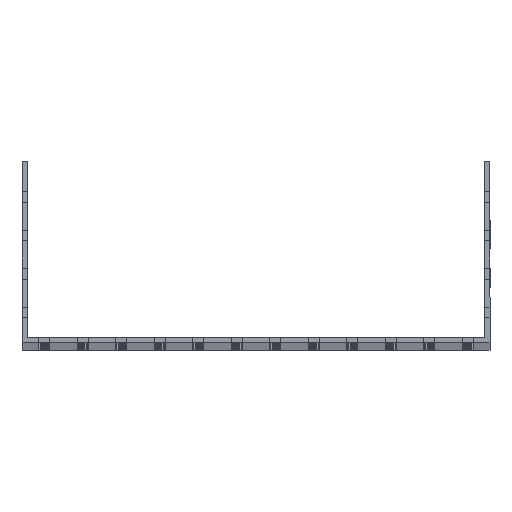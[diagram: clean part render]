
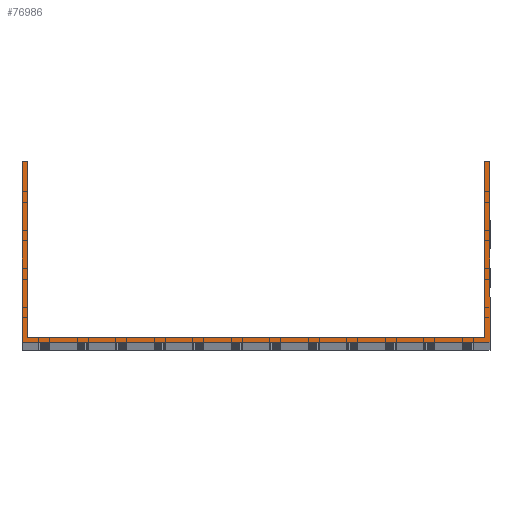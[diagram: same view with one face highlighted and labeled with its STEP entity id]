
A CAD part, top view. The second image highlights one B-rep face of the part: STEP entity #76986.
In plain terms, the highlighted planar face has unit normal (0, 0, 1).
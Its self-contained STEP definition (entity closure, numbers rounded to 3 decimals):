
#2310 = CARTESIAN_POINT ( 'NONE',  ( 148.5, 3.5, 1500. ) ) ;
#3066 = CARTESIAN_POINT ( 'NONE',  ( 0., 0., 1500. ) ) ;
#4781 = VERTEX_POINT ( 'NONE', #163656 ) ;
#15657 = CARTESIAN_POINT ( 'NONE',  ( -152., 117.5, 1500. ) ) ;
#16689 = LINE ( 'NONE', #107809, #119823 ) ;
#33761 = FACE_OUTER_BOUND ( 'NONE', #102171, .T. ) ;
#36306 = VECTOR ( 'NONE', #155579, 1000. ) ;
#36486 = ORIENTED_EDGE ( 'NONE', *, *, #125085, .T. ) ;
#36998 = VECTOR ( 'NONE', #194081, 1000. ) ;
#41547 = CARTESIAN_POINT ( 'NONE',  ( -152., 117.5, 1500. ) ) ;
#42007 = ORIENTED_EDGE ( 'NONE', *, *, #189255, .F. ) ;
#43500 = LINE ( 'NONE', #87095, #36998 ) ;
#49056 = CARTESIAN_POINT ( 'NONE',  ( 152., 0., 1500. ) ) ;
#52103 = ORIENTED_EDGE ( 'NONE', *, *, #180676, .T. ) ;
#52490 = LINE ( 'NONE', #41547, #182932 ) ;
#61447 = DIRECTION ( 'NONE',  ( 0., -1., 0. ) ) ;
#63504 = DIRECTION ( 'NONE',  ( 1., 0., 0. ) ) ;
#64327 = CARTESIAN_POINT ( 'NONE',  ( 152., 117.5, 1500. ) ) ;
#64464 = PLANE ( 'NONE',  #166950 ) ;
#67388 = DIRECTION ( 'NONE',  ( 0., 0., 1. ) ) ;
#68484 = CARTESIAN_POINT ( 'NONE',  ( -148.5, 117.5, 1500. ) ) ;
#73127 = EDGE_CURVE ( 'NONE', #119090, #4781, #137780, .T. ) ;
#73561 = VECTOR ( 'NONE', #61447, 1000. ) ;
#74668 = CARTESIAN_POINT ( 'NONE',  ( -152., 3.5, 1500. ) ) ;
#76986 = ADVANCED_FACE ( 'NONE', ( #33761 ), #64464, .T. ) ;
#77212 = DIRECTION ( 'NONE',  ( 0., 1., 0. ) ) ;
#79025 = ORIENTED_EDGE ( 'NONE', *, *, #73127, .F. ) ;
#79175 = LINE ( 'NONE', #64327, #129752 ) ;
#80277 = CARTESIAN_POINT ( 'NONE',  ( 148.5, 117.5, 1500. ) ) ;
#81069 = CARTESIAN_POINT ( 'NONE',  ( -152., 0., 1500. ) ) ;
#82747 = VERTEX_POINT ( 'NONE', #81069 ) ;
#87095 = CARTESIAN_POINT ( 'NONE',  ( -152., 0., 1500. ) ) ;
#88980 = DIRECTION ( 'NONE',  ( -1., 0., 0. ) ) ;
#95890 = ORIENTED_EDGE ( 'NONE', *, *, #189666, .T. ) ;
#100510 = ORIENTED_EDGE ( 'NONE', *, *, #136485, .T. ) ;
#102171 = EDGE_LOOP ( 'NONE', ( #42007, #95890, #100510, #52103, #36486, #162678, #79025, #122161 ) ) ;
#104405 = CARTESIAN_POINT ( 'NONE',  ( -148.5, 3.5, 1500. ) ) ;
#107809 = CARTESIAN_POINT ( 'NONE',  ( -152., 117.5, 1500. ) ) ;
#110653 = CARTESIAN_POINT ( 'NONE',  ( -152., 117.5, 1500. ) ) ;
#113901 = DIRECTION ( 'NONE',  ( -1., 0., 0. ) ) ;
#117464 = VECTOR ( 'NONE', #181650, 1000. ) ;
#119090 = VERTEX_POINT ( 'NONE', #2310 ) ;
#119264 = LINE ( 'NONE', #74668, #117464 ) ;
#119823 = VECTOR ( 'NONE', #141442, 1000. ) ;
#120313 = VERTEX_POINT ( 'NONE', #104405 ) ;
#120888 = CARTESIAN_POINT ( 'NONE',  ( -148.5, 117.5, 1500. ) ) ;
#122161 = ORIENTED_EDGE ( 'NONE', *, *, #157951, .F. ) ;
#125085 = EDGE_CURVE ( 'NONE', #171531, #160373, #79175, .T. ) ;
#129752 = VECTOR ( 'NONE', #77212, 1000. ) ;
#131545 = CARTESIAN_POINT ( 'NONE',  ( 152., 117.5, 1500. ) ) ;
#136211 = EDGE_CURVE ( 'NONE', #160373, #4781, #52490, .T. ) ;
#136485 = EDGE_CURVE ( 'NONE', #167802, #82747, #16689, .T. ) ;
#137780 = LINE ( 'NONE', #80277, #36306 ) ;
#141442 = DIRECTION ( 'NONE',  ( 0., -1., 0. ) ) ;
#149642 = LINE ( 'NONE', #120888, #73561 ) ;
#149648 = VECTOR ( 'NONE', #88980, 1000. ) ;
#150371 = LINE ( 'NONE', #15657, #149648 ) ;
#155579 = DIRECTION ( 'NONE',  ( 0., 1., 0. ) ) ;
#157951 = EDGE_CURVE ( 'NONE', #120313, #119090, #119264, .T. ) ;
#160373 = VERTEX_POINT ( 'NONE', #131545 ) ;
#162678 = ORIENTED_EDGE ( 'NONE', *, *, #136211, .T. ) ;
#163656 = CARTESIAN_POINT ( 'NONE',  ( 148.5, 117.5, 1500. ) ) ;
#166950 = AXIS2_PLACEMENT_3D ( 'NONE', #3066, #67388, #63504 ) ;
#167802 = VERTEX_POINT ( 'NONE', #110653 ) ;
#171531 = VERTEX_POINT ( 'NONE', #49056 ) ;
#180676 = EDGE_CURVE ( 'NONE', #82747, #171531, #43500, .T. ) ;
#181650 = DIRECTION ( 'NONE',  ( 1., 0., 0. ) ) ;
#182932 = VECTOR ( 'NONE', #113901, 1000. ) ;
#187943 = VERTEX_POINT ( 'NONE', #68484 ) ;
#189255 = EDGE_CURVE ( 'NONE', #187943, #120313, #149642, .T. ) ;
#189666 = EDGE_CURVE ( 'NONE', #187943, #167802, #150371, .T. ) ;
#194081 = DIRECTION ( 'NONE',  ( 1., 0., 0. ) ) ;
